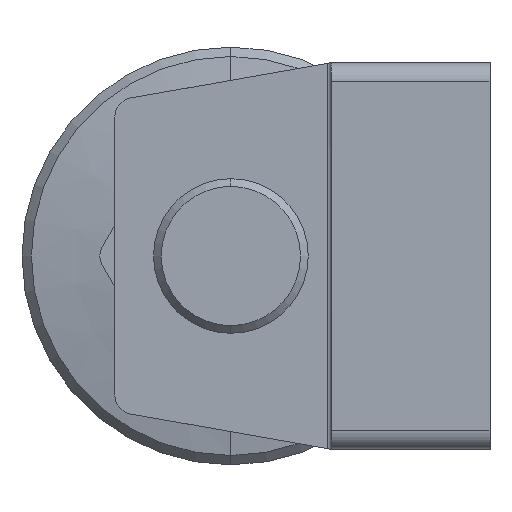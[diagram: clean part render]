
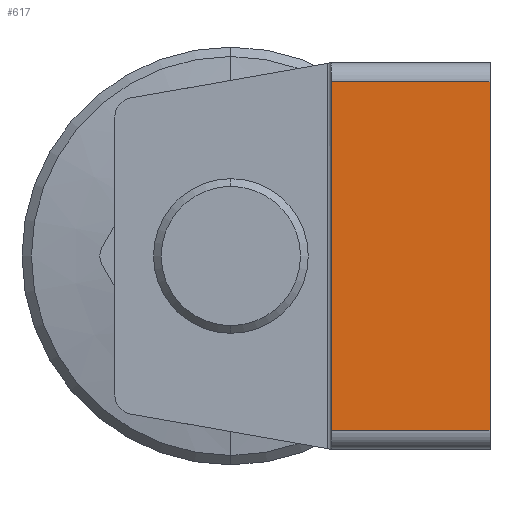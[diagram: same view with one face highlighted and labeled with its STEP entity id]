
A CAD part, left-side view. The second image highlights one B-rep face of the part: STEP entity #617.
In plain terms, the highlighted planar face has unit normal (-1, 0, 0).
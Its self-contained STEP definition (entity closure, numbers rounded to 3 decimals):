
#34 = DIRECTION ( 'NONE',  ( 0., 0., -1. ) ) ;
#52 = DIRECTION ( 'NONE',  ( 1., 0., 0. ) ) ;
#342 = DIRECTION ( 'NONE',  ( 0., -1., 0. ) ) ;
#362 = VERTEX_POINT ( 'NONE', #2282 ) ;
#387 = DIRECTION ( 'NONE',  ( 0., 0., -1. ) ) ;
#508 = ORIENTED_EDGE ( 'NONE', *, *, #2291, .F. ) ;
#603 = VERTEX_POINT ( 'NONE', #995 ) ;
#617 = ADVANCED_FACE ( 'NONE', ( #1369 ), #774, .F. ) ;
#685 = LINE ( 'NONE', #949, #1642 ) ;
#755 = LINE ( 'NONE', #926, #2193 ) ;
#774 = PLANE ( 'NONE',  #933 ) ;
#921 = LINE ( 'NONE', #1433, #2359 ) ;
#926 = CARTESIAN_POINT ( 'NONE',  ( -148., 41., 50. ) ) ;
#929 = LINE ( 'NONE', #2347, #1191 ) ;
#933 = AXIS2_PLACEMENT_3D ( 'NONE', #1325, #52, #387 ) ;
#949 = CARTESIAN_POINT ( 'NONE',  ( -148., 0., -45. ) ) ;
#995 = CARTESIAN_POINT ( 'NONE',  ( -148., 0., 45. ) ) ;
#1191 = VECTOR ( 'NONE', #1233, 1000. ) ;
#1214 = EDGE_LOOP ( 'NONE', ( #2551, #1380, #508, #2129 ) ) ;
#1233 = DIRECTION ( 'NONE',  ( 0., 0., -1. ) ) ;
#1258 = EDGE_CURVE ( 'NONE', #603, #362, #921, .T. ) ;
#1325 = CARTESIAN_POINT ( 'NONE',  ( -148., 0., 50. ) ) ;
#1369 = FACE_OUTER_BOUND ( 'NONE', #1214, .T. ) ;
#1380 = ORIENTED_EDGE ( 'NONE', *, *, #1719, .T. ) ;
#1397 = CARTESIAN_POINT ( 'NONE',  ( -148., 41., -45. ) ) ;
#1422 = VERTEX_POINT ( 'NONE', #1657 ) ;
#1433 = CARTESIAN_POINT ( 'NONE',  ( -148., 0., 45. ) ) ;
#1642 = VECTOR ( 'NONE', #342, 1000. ) ;
#1657 = CARTESIAN_POINT ( 'NONE',  ( -148., 0., -45. ) ) ;
#1719 = EDGE_CURVE ( 'NONE', #2584, #1422, #685, .T. ) ;
#1839 = EDGE_CURVE ( 'NONE', #362, #2584, #755, .T. ) ;
#2129 = ORIENTED_EDGE ( 'NONE', *, *, #1258, .T. ) ;
#2182 = DIRECTION ( 'NONE',  ( 0., 1., 0. ) ) ;
#2193 = VECTOR ( 'NONE', #34, 1000. ) ;
#2282 = CARTESIAN_POINT ( 'NONE',  ( -148., 41., 45. ) ) ;
#2291 = EDGE_CURVE ( 'NONE', #603, #1422, #929, .T. ) ;
#2347 = CARTESIAN_POINT ( 'NONE',  ( -148., 0., 50. ) ) ;
#2359 = VECTOR ( 'NONE', #2182, 1000. ) ;
#2551 = ORIENTED_EDGE ( 'NONE', *, *, #1839, .T. ) ;
#2584 = VERTEX_POINT ( 'NONE', #1397 ) ;
